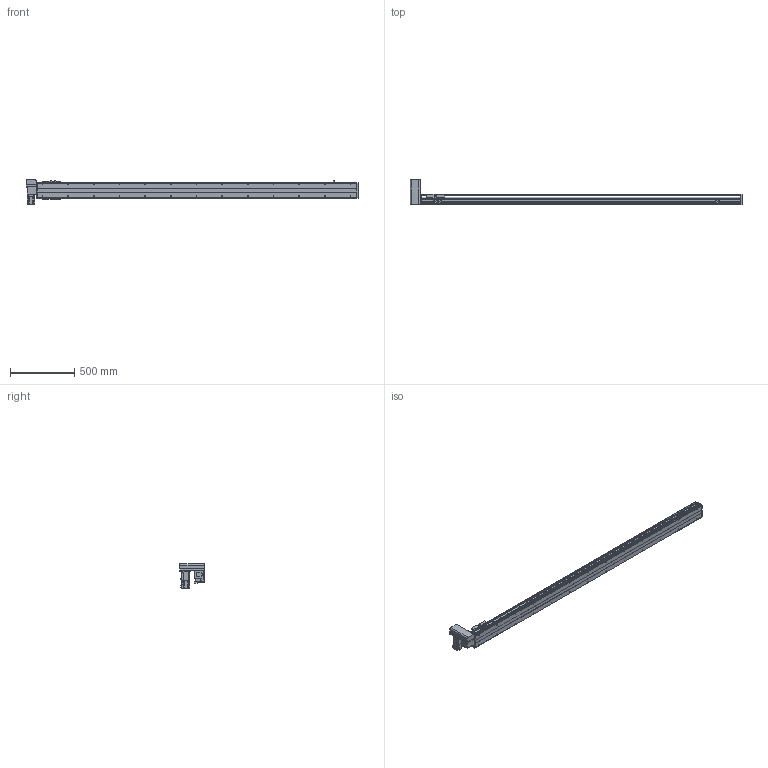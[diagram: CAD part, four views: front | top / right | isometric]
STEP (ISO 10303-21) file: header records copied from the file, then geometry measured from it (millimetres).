
FILE_DESCRIPTION( ( 'STEP AP214' ), '1' );
FILE_NAME( 'x:/temp/worker_27/temp/exporttempdir_6708_248_1Zw37/format_0/PBS120-P40-S2200-RU-T40-C1-N(0).stp', '2022-06-06T00:51:13', ( 'License CC BY-ND 4.0' ), ( 'CADENAS' ), ' ', 'PARTsolutions', ' ' );
FILE_SCHEMA( ( 'AUTOMOTIVE_DESIGN { 1 0 10303 214 1 1 1 1 }' ) );
Length unit declared in the file: millimetre
Products named in the file (7): PBS120-P40-S2200-RU-T40-C1-N(0); _PBS120-S2200()_body; _PBS120T-RU_motors; _T40-p1; _PBS120_sliser; _PBS120_plant; _PBS120_sensor
Assembly tree (8 placements, depth 2):
  PBS120-P40-S2200-RU-T40-C1-N(0)
    _PBS120-S2200()_body
    _PBS120T-RU_motors
    _T40-p1
    _PBS120_sliser
    _PBS120_plant
    _PBS120_sensor  x3
Bounding box: 2586 x 198 x 189.7 mm (x, y, z)
Volume: 9867343.6 mm3; surface area: 2025451.3 mm2
Topology: 8 solids, 8 shells, 858 faces, 2206 edges, 1417 vertices
Faces by surface type: plane 559, cylinder 239, cone 58, torus 2
Full cylindrical faces by diameter (mm): 2.459 x6, 3.242 x4, 4 x2, 4.134 x4, 4.5 x10, 4.917 x30, 5.5 x11, 6 x2, 6.6 x1, 7 x2, 8.5 x4, 9 x4, 12 x1, 14 x1, 30 x2, 40 x1, 50 x2
Entity records: 28164 total; most frequent: DIRECTION 3860, CARTESIAN_POINT 3767, ORIENTED_EDGE 3562, EDGE_CURVE 1781, AXIS2_PLACEMENT_3D 1316, LINE 1228, VECTOR 1228, VERTEX_POINT 1223
